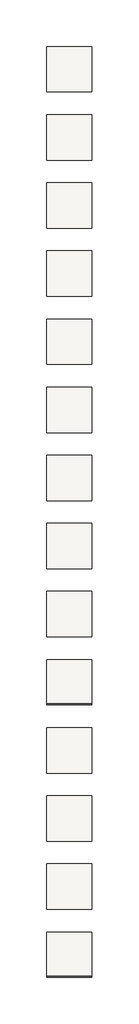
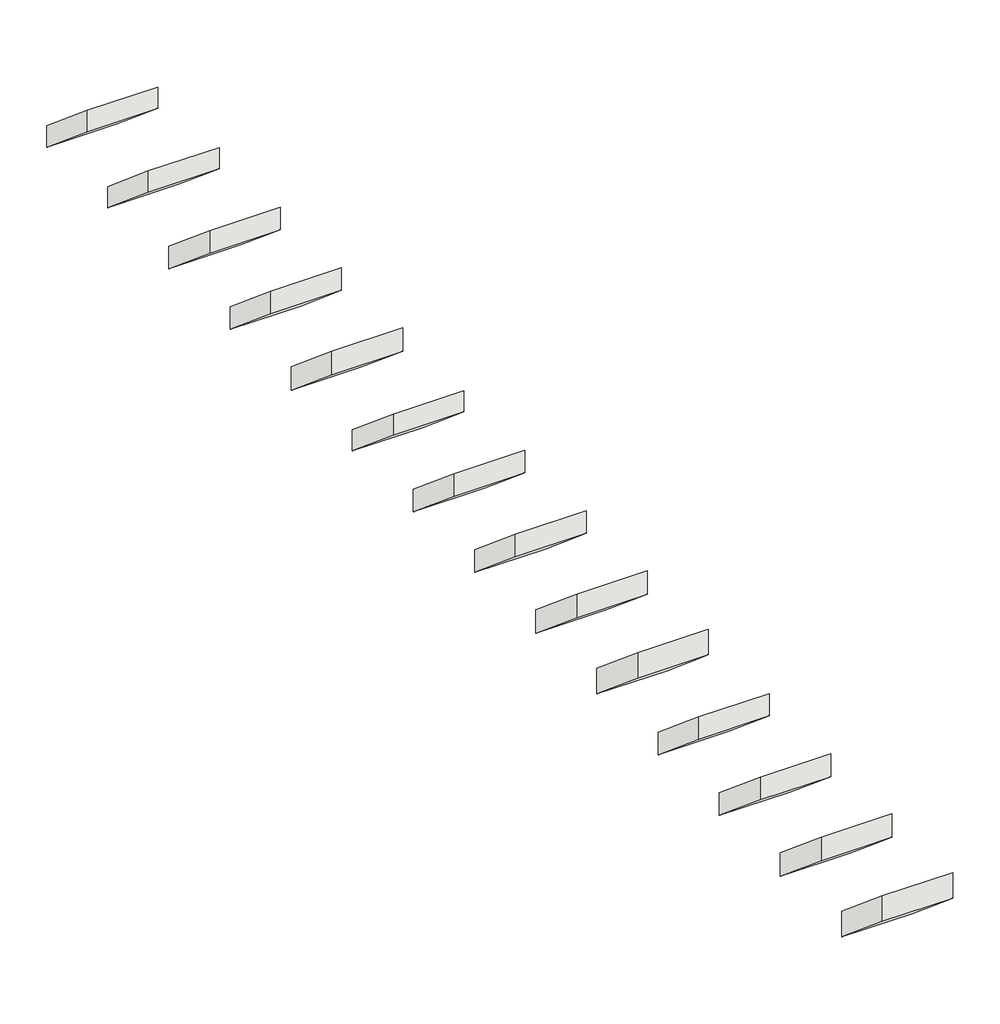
# One storey: 14 roofs.
"""IFC4 building model written with IfcOpenShell, lengths in millimetres."""

from ifc_helpers import new_model, si_unit, frame, origin, place, context, project, spatial, polyline, outline, extrude, element, save

model = new_model("IFC4")

# Units and contexts
model_context = context("Model", 3, world=origin())
ifc_project = project(units=[si_unit("LENGTHUNIT", "METRE", prefix="MILLI")], contexts=[model_context])

# Site, building, storey
site = spatial("IfcSite", under=ifc_project)
building = spatial("IfcBuilding", under=site)
storey = spatial("IfcBuildingStorey", under=building, Name="4_Apšūti_mansardi", Elevation=12000.0)

# Roofs
placement = place(None, origin())
element("IfcRoof", 1, ObjectType="RIGIPS - 4.70.03 - REI 15", at=placement, inside=storey, context=model_context, shape_type="SweptSolid", body=[
    extrude(outline(polyline([(15606.25, 13155.6608988), (16606.25, 12316.5612677), (16606.25, 12000.0), (15606.25, 12839.0996312), (15606.25, 13155.6608988)])), frame((9000.0, 0.0, 0.0), z_axis=(1.0, 0.0, 0.0), x_axis=(0.0, 1.0, 0.0)), (0.0, 0.0, 1.0), 1000.0),
])
element("IfcRoof", 2, ObjectType="RIGIPS - 4.70.03 - REI 30 (45)", at=placement, inside=storey, context=model_context, shape_type="SweptSolid", body=[
    extrude(outline(polyline([(14106.25, 13158.9244171), (15106.25, 12319.8247859), (15106.25, 12000.0), (14106.25, 12839.0996312), (14106.25, 13158.9244171)])), frame((9000.0, 0.0, 0.0), z_axis=(1.0, 0.0, 0.0), x_axis=(0.0, 1.0, 0.0)), (0.0, 0.0, 1.0), 1000.0),
])
element("IfcRoof", 3, ObjectType="RIGIPS - 4.70.03 - REI 30 (55)", at=placement, inside=storey, context=model_context, shape_type="SweptSolid", body=[
    extrude(outline(polyline([(12606.25, 13171.97849), (13606.25, 12332.8788588), (13606.25, 12000.0), (12606.25, 12839.0996312), (12606.25, 13171.97849)])), frame((9000.0, 0.0, 0.0), z_axis=(1.0, 0.0, 0.0), x_axis=(0.0, 1.0, 0.0)), (0.0, 0.0, 1.0), 1000.0),
])
element("IfcRoof", 4, ObjectType="RIGIPS - 4.70.03 - REI 60 (60)", at=placement, inside=storey, context=model_context, shape_type="SweptSolid", body=[
    extrude(outline(polyline([(11106.25, 13178.5055264), (12106.25, 12339.4058952), (12106.25, 12000.0), (11106.25, 12839.0996312), (11106.25, 13178.5055264)])), frame((9000.0, 0.0, 0.0), z_axis=(1.0, 0.0, 0.0), x_axis=(0.0, 1.0, 0.0)), (0.0, 0.0, 1.0), 1000.0),
])
element("IfcRoof", 5, ObjectType="RIGIPS - 4.70.03 - REI 60 (68)", at=placement, inside=storey, context=model_context, shape_type="SweptSolid", body=[
    extrude(outline(polyline([(9606.25, 13188.2960811), (10606.25, 12349.1964499), (10606.25, 12000.0), (9606.25, 12839.0996312), (9606.25, 13188.2960811)])), frame((9000.0, 0.0, 0.0), z_axis=(1.0, 0.0, 0.0), x_axis=(0.0, 1.0, 0.0)), (0.0, 0.0, 1.0), 1000.0),
])
element("IfcRoof", 6, ObjectType="RIGIPS - 4.70.03", at=placement, inside=storey, context=model_context, shape_type="SweptSolid", body=[
    extrude(outline(polyline([(8106.25, 13155.6608988), (9106.25, 12316.5612677), (9106.25, 12000.0), (8106.25, 12839.0996312), (8106.25, 13155.6608988)])), frame((9000.0, 0.0, 0.0), z_axis=(1.0, 0.0, 0.0), x_axis=(0.0, 1.0, 0.0)), (0.0, 0.0, 1.0), 1000.0),
])
element("IfcRoof", 7, ObjectType="RIGIPS - 4.70.04 - REI 30", at=placement, inside=storey, context=model_context, shape_type="SweptSolid", body=[
    extrude(outline(polyline([(6606.25, 13171.97849), (7606.25, 12332.8788588), (7606.25, 12000.0), (6606.25, 12839.0996312), (6606.25, 13171.97849)])), frame((9000.0, 0.0, 0.0), z_axis=(1.0, 0.0, 0.0), x_axis=(0.0, 1.0, 0.0)), (0.0, 0.0, 1.0), 1000.0),
])
element("IfcRoof", 8, ObjectType="RIGIPS - 4.70.04 - REI 60 (58)", at=placement, inside=storey, context=model_context, shape_type="SweptSolid", body=[
    extrude(outline(polyline([(5106.25, 13178.5055264), (6106.25, 12339.4058952), (6106.25, 12000.0), (5106.25, 12839.0996312), (5106.25, 13178.5055264)])), frame((9000.0, 0.0, 0.0), z_axis=(1.0, 0.0, 0.0), x_axis=(0.0, 1.0, 0.0)), (0.0, 0.0, 1.0), 1000.0),
])
element("IfcRoof", 9, ObjectType="RIGIPS - 4.70.04 - REI 60 (66)", at=placement, inside=storey, context=model_context, shape_type="SweptSolid", body=[
    extrude(outline(polyline([(3606.25, 13188.2960811), (4606.25, 12349.1964499), (4606.25, 12000.0), (3606.25, 12839.0996312), (3606.25, 13188.2960811)])), frame((9000.0, 0.0, 0.0), z_axis=(1.0, 0.0, 0.0), x_axis=(0.0, 1.0, 0.0)), (0.0, 0.0, 1.0), 1000.0),
])
element("IfcRoof", 10, ObjectType="RIGIPS - 4.70.04", at=placement, inside=storey, context=model_context, shape_type="SweptSolid", body=[
    extrude(outline(polyline([(2106.25, 13220.9312633), (3106.25, 12381.8316321), (3106.25, 12000.0), (2106.25, 12839.0996312), (2106.25, 13220.9312633)])), frame((9000.0, 0.0, 0.0), z_axis=(1.0, 0.0, 0.0), x_axis=(0.0, 1.0, 0.0)), (0.0, 0.0, 1.0), 1000.0),
])
element("IfcRoof", 11, ObjectType="RIGIPS - 4.70.05 - REI 30", at=placement, inside=storey, context=model_context, shape_type="SweptSolid", body=[
    extrude(outline(polyline([(606.25, 13171.97849), (1606.25, 12332.8788588), (1606.25, 12000.0), (606.25, 12839.0996312), (606.25, 13171.97849)])), frame((9000.0, 0.0, 0.0), z_axis=(1.0, 0.0, 0.0), x_axis=(0.0, 1.0, 0.0)), (0.0, 0.0, 1.0), 1000.0),
])
element("IfcRoof", 12, ObjectType="RIGIPS - 4.70.05 - REI 60 (60)", at=placement, inside=storey, context=model_context, shape_type="SweptSolid", body=[
    extrude(outline(polyline([(-893.75, 13178.5055264), (106.25, 12339.4058952), (106.25, 12000.0), (-893.75, 12839.0996312), (-893.75, 13178.5055264)])), frame((9000.0, 0.0, 0.0), z_axis=(1.0, 0.0, 0.0), x_axis=(0.0, 1.0, 0.0)), (0.0, 0.0, 1.0), 1000.0),
])
element("IfcRoof", 13, ObjectType="RIGIPS - 4.70.05 - REI 60 (68)", at=placement, inside=storey, context=model_context, shape_type="SweptSolid", body=[
    extrude(outline(polyline([(-2393.75, 13188.2960811), (-1393.75, 12349.1964499), (-1393.75, 12000.0), (-2393.75, 12839.0996312), (-2393.75, 13188.2960811)])), frame((9000.0, 0.0, 0.0), z_axis=(1.0, 0.0, 0.0), x_axis=(0.0, 1.0, 0.0)), (0.0, 0.0, 1.0), 1000.0),
])
element("IfcRoof", 14, ObjectType="RIGIPS - 4.70.05", at=placement, inside=storey, context=model_context, shape_type="SweptSolid", body=[
    extrude(outline(polyline([(-3893.75, 13220.9312633), (-2893.75, 12381.8316321), (-2893.75, 12000.0), (-3893.75, 12839.0996312), (-3893.75, 13220.9312633)])), frame((9000.0, 0.0, 0.0), z_axis=(1.0, 0.0, 0.0), x_axis=(0.0, 1.0, 0.0)), (0.0, 0.0, 1.0), 1000.0),
])

save(model, "model.ifc")
